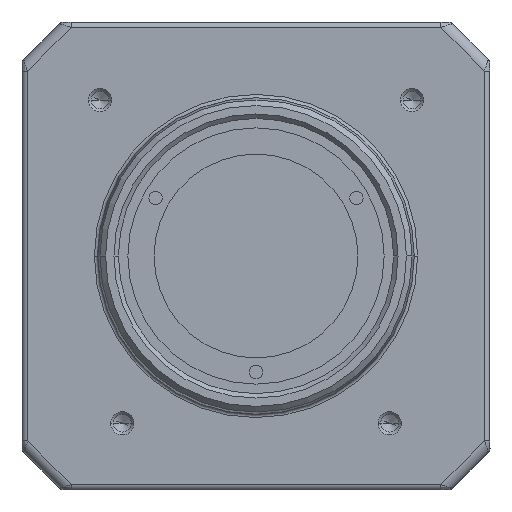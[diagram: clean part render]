
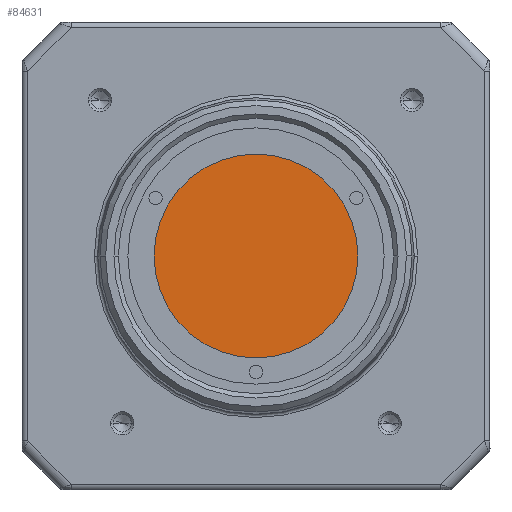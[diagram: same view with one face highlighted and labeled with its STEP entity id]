
A CAD part, left-side view. The second image highlights one B-rep face of the part: STEP entity #84631.
In plain terms, the highlighted planar face has unit normal (-1, 0, 0).
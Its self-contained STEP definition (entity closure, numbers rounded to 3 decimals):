
#20662=CARTESIAN_POINT('',(0.1,0.,0.));
#20663=DIRECTION('',(1.,0.,0.));
#20664=DIRECTION('',(0.,1.,0.));
#20665=AXIS2_PLACEMENT_3D('',#20662,#20663,#20664);
#20667=CARTESIAN_POINT('',(0.1,0.,0.));
#20668=DIRECTION('',(1.,0.,0.));
#20669=DIRECTION('',(0.,-1.,0.));
#20670=AXIS2_PLACEMENT_3D('',#20667,#20668,#20669);
#58124=CARTESIAN_POINT('',(0.1,9.15,0.));
#58125=CARTESIAN_POINT('',(0.1,-9.15,0.));
#58126=VERTEX_POINT('',#58124);
#58127=VERTEX_POINT('',#58125);
#84621=CARTESIAN_POINT('',(0.1,0.,0.));
#84622=DIRECTION('',(1.,0.,0.));
#84623=DIRECTION('',(0.,-1.,0.));
#84624=AXIS2_PLACEMENT_3D('',#84621,#84622,#84623);
#84625=PLANE('',#84624);
#84626=ORIENTED_EDGE('',*,*,#84599,.T.);
#84628=ORIENTED_EDGE('',*,*,#84627,.T.);
#84629=EDGE_LOOP('',(#84626,#84628));
#84630=FACE_OUTER_BOUND('',#84629,.F.);
#84631=ADVANCED_FACE('',(#84630),#84625,.F.);
#20666=CIRCLE('',#20665,9.15);
#20671=CIRCLE('',#20670,9.15);
#84599=EDGE_CURVE('',#58126,#58127,#20666,.T.);
#84627=EDGE_CURVE('',#58127,#58126,#20671,.T.);
